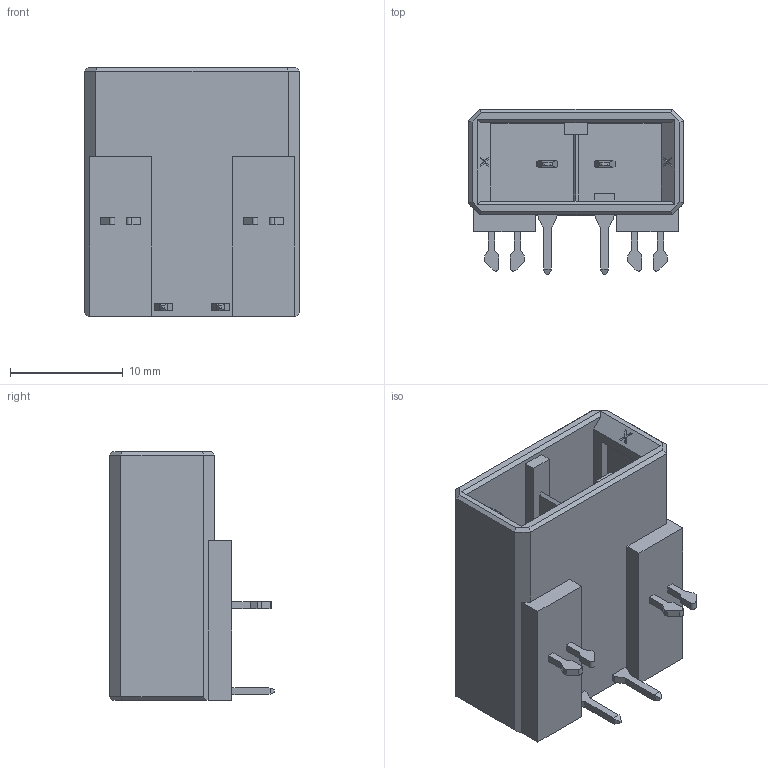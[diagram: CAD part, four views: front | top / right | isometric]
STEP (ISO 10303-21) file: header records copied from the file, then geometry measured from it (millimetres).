
FILE_DESCRIPTION (( 'STEP AP203' ), '1' );
FILE_NAME ('DK-3200S-02H-FA.STEP', '2023-11-09T08:04:56', ( '' ), ( '' ), 'SwSTEP 2.0', 'SolidWorks 2018', '' );
FILE_SCHEMA (( 'CONFIG_CONTROL_DESIGN' ));
Length unit declared in the file: millimetre
Products named in the file (1): DK-3200S-02H-FA
Bounding box: 19.08 x 14.65 x 22.1 mm (x, y, z)
Volume: 2388.8 mm3; surface area: 2816 mm2
Topology: 1 solids, 1 shells, 363 faces, 996 edges, 660 vertices
Faces by surface type: plane 253, bspline 94, cylinder 16
Entity records: 14127 total; most frequent: CARTESIAN_POINT 5506, ORIENTED_EDGE 1992, DIRECTION 1348, EDGE_CURVE 996, VECTOR 776, LINE 776, VERTEX_POINT 660, EDGE_LOOP 388
